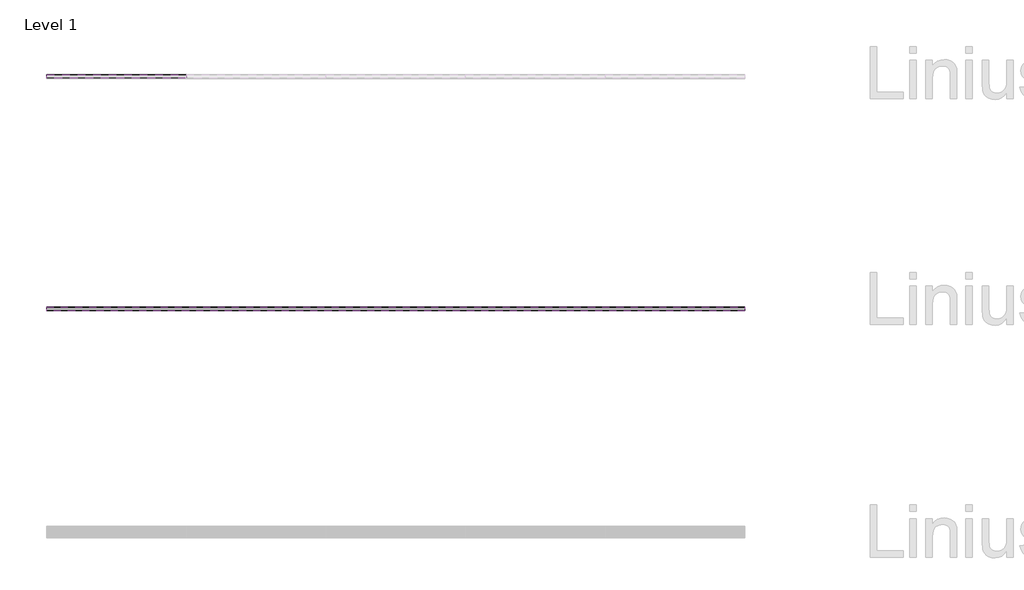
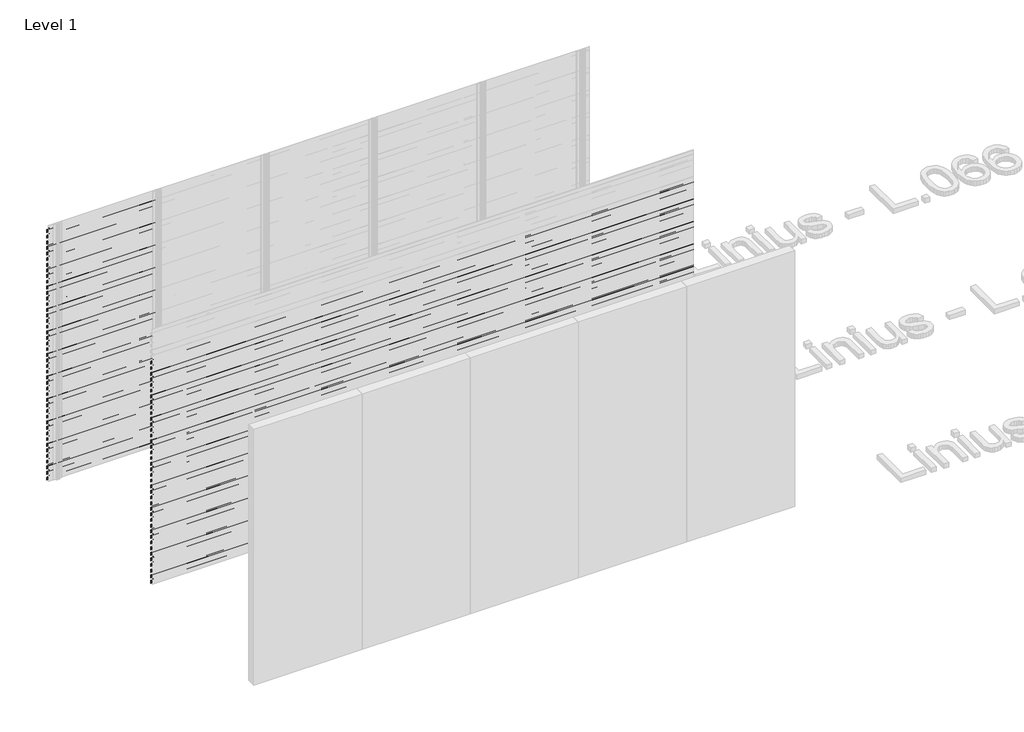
# One storey, part 43 of 540: 85 proxies.
"""IFC4 building model written with IfcOpenShell, lengths in millimetres."""

from ifc_helpers import new_model, si_unit, frame, origin, place, context, project, spatial, polyline, outline, extrude, element, save

model = new_model("IFC4")

# Units and contexts
model_context = context("Model", 3, world=origin())
ifc_project = project(units=[si_unit("LENGTHUNIT", "METRE", prefix="MILLI")], contexts=[model_context])

# Site, building, storey
site = spatial("IfcSite", under=ifc_project)
building = spatial("IfcBuilding", under=site)
storey = spatial("IfcBuildingStorey", under=building, Name="Level 1", Elevation=0.0)

# Proxies
placement = place(None, origin())
element("IfcBuildingElementProxy", 1, Name="Wall Sweeps", at=placement, inside=storey, context=model_context, shape_type="SweptSolid", body=[
    extrude(outline(polyline([(7018.0270068, 2930.0), (7018.0270068, 2897.0), (7016.7770068, 2897.7216933), (7016.7770068, 2929.2872415), (6987.0270068, 2950.0588647), (6987.0270068, 2970.0), (6988.2770068, 2970.0), (6988.2770068, 2950.7716232), (7018.0270068, 2930.0)])), frame((44966.6208097, 0.0, 0.0), z_axis=(1.0, 0.0, 0.0), x_axis=(0.0, 1.0, 0.0)), (0.0, 0.0, 1.0), 1200.0),
])
element("IfcBuildingElementProxy", 2, Name="Wall Sweeps", at=placement, inside=storey, context=model_context, shape_type="SweptSolid", body=[
    extrude(outline(polyline([(7018.0270068, 2864.0), (7018.0270068, 2831.0), (7016.7770068, 2831.7216933), (7016.7770068, 2863.2872415), (6987.0270068, 2884.0588647), (6987.0270068, 2904.0), (6988.2770068, 2904.0), (6988.2770068, 2884.7716232), (7018.0270068, 2864.0)])), frame((44966.6208097, 0.0, 0.0), z_axis=(1.0, 0.0, 0.0), x_axis=(0.0, 1.0, 0.0)), (0.0, 0.0, 1.0), 1200.0),
])
element("IfcBuildingElementProxy", 3, Name="Wall Sweeps", at=placement, inside=storey, context=model_context, shape_type="SweptSolid", body=[
    extrude(outline(polyline([(7018.0270068, 2798.0), (7018.0270068, 2765.0), (7016.7770068, 2765.7216933), (7016.7770068, 2797.2872415), (6987.0270068, 2818.0588647), (6987.0270068, 2838.0), (6988.2770068, 2838.0), (6988.2770068, 2818.7716232), (7018.0270068, 2798.0)])), frame((44966.6208097, 0.0, 0.0), z_axis=(1.0, 0.0, 0.0), x_axis=(0.0, 1.0, 0.0)), (0.0, 0.0, 1.0), 1200.0),
])
element("IfcBuildingElementProxy", 4, Name="Wall Sweeps", at=placement, inside=storey, context=model_context, shape_type="SweptSolid", body=[
    extrude(outline(polyline([(7018.0270068, 2732.0), (7018.0270068, 2699.0), (7016.7770068, 2699.7216933), (7016.7770068, 2731.2872415), (6987.0270068, 2752.0588647), (6987.0270068, 2772.0), (6988.2770068, 2772.0), (6988.2770068, 2752.7716232), (7018.0270068, 2732.0)])), frame((44966.6208097, 0.0, 0.0), z_axis=(1.0, 0.0, 0.0), x_axis=(0.0, 1.0, 0.0)), (0.0, 0.0, 1.0), 1200.0),
])
element("IfcBuildingElementProxy", 5, Name="Wall Sweeps", at=placement, inside=storey, context=model_context, shape_type="SweptSolid", body=[
    extrude(outline(polyline([(7018.0270068, 2666.0), (7018.0270068, 2633.0), (7016.7770068, 2633.7216933), (7016.7770068, 2665.2872415), (6987.0270068, 2686.0588647), (6987.0270068, 2706.0), (6988.2770068, 2706.0), (6988.2770068, 2686.7716232), (7018.0270068, 2666.0)])), frame((44966.6208097, 0.0, 0.0), z_axis=(1.0, 0.0, 0.0), x_axis=(0.0, 1.0, 0.0)), (0.0, 0.0, 1.0), 1200.0),
])
element("IfcBuildingElementProxy", 6, Name="Wall Sweeps", at=placement, inside=storey, context=model_context, shape_type="SweptSolid", body=[
    extrude(outline(polyline([(7018.0270068, 2600.0), (7018.0270068, 2567.0), (7016.7770068, 2567.7216933), (7016.7770068, 2599.2872415), (6987.0270068, 2620.0588647), (6987.0270068, 2640.0), (6988.2770068, 2640.0), (6988.2770068, 2620.7716232), (7018.0270068, 2600.0)])), frame((44966.6208097, 0.0, 0.0), z_axis=(1.0, 0.0, 0.0), x_axis=(0.0, 1.0, 0.0)), (0.0, 0.0, 1.0), 1200.0),
])
element("IfcBuildingElementProxy", 7, Name="Wall Sweeps", at=placement, inside=storey, context=model_context, shape_type="SweptSolid", body=[
    extrude(outline(polyline([(7018.0270068, 2534.0), (7018.0270068, 2501.0), (7016.7770068, 2501.7216933), (7016.7770068, 2533.2872415), (6987.0270068, 2554.0588647), (6987.0270068, 2574.0), (6988.2770068, 2574.0), (6988.2770068, 2554.7716232), (7018.0270068, 2534.0)])), frame((44966.6208097, 0.0, 0.0), z_axis=(1.0, 0.0, 0.0), x_axis=(0.0, 1.0, 0.0)), (0.0, 0.0, 1.0), 1200.0),
])
element("IfcBuildingElementProxy", 8, Name="Wall Sweeps", at=placement, inside=storey, context=model_context, shape_type="SweptSolid", body=[
    extrude(outline(polyline([(7018.0270068, 2468.0), (7018.0270068, 2435.0), (7016.7770068, 2435.7216933), (7016.7770068, 2467.2872415), (6987.0270068, 2488.0588647), (6987.0270068, 2508.0), (6988.2770068, 2508.0), (6988.2770068, 2488.7716232), (7018.0270068, 2468.0)])), frame((44966.6208097, 0.0, 0.0), z_axis=(1.0, 0.0, 0.0), x_axis=(0.0, 1.0, 0.0)), (0.0, 0.0, 1.0), 1200.0),
])
element("IfcBuildingElementProxy", 9, Name="Wall Sweeps", at=placement, inside=storey, context=model_context, shape_type="SweptSolid", body=[
    extrude(outline(polyline([(7018.0270068, 2402.0), (7018.0270068, 2369.0), (7016.7770068, 2369.7216933), (7016.7770068, 2401.2872415), (6987.0270068, 2422.0588647), (6987.0270068, 2442.0), (6988.2770068, 2442.0), (6988.2770068, 2422.7716232), (7018.0270068, 2402.0)])), frame((44966.6208097, 0.0, 0.0), z_axis=(1.0, 0.0, 0.0), x_axis=(0.0, 1.0, 0.0)), (0.0, 0.0, 1.0), 1200.0),
])
element("IfcBuildingElementProxy", 10, Name="Wall Sweeps", at=placement, inside=storey, context=model_context, shape_type="SweptSolid", body=[
    extrude(outline(polyline([(7018.0270068, 2336.0), (7018.0270068, 2303.0), (7016.7770068, 2303.7216933), (7016.7770068, 2335.2872415), (6987.0270068, 2356.0588647), (6987.0270068, 2376.0), (6988.2770068, 2376.0), (6988.2770068, 2356.7716232), (7018.0270068, 2336.0)])), frame((44966.6208097, 0.0, 0.0), z_axis=(1.0, 0.0, 0.0), x_axis=(0.0, 1.0, 0.0)), (0.0, 0.0, 1.0), 1200.0),
])
element("IfcBuildingElementProxy", 11, Name="Wall Sweeps", at=placement, inside=storey, context=model_context, shape_type="SweptSolid", body=[
    extrude(outline(polyline([(7018.0270068, 2270.0), (7018.0270068, 2237.0), (7016.7770068, 2237.7216933), (7016.7770068, 2269.2872415), (6987.0270068, 2290.0588647), (6987.0270068, 2310.0), (6988.2770068, 2310.0), (6988.2770068, 2290.7716232), (7018.0270068, 2270.0)])), frame((44966.6208097, 0.0, 0.0), z_axis=(1.0, 0.0, 0.0), x_axis=(0.0, 1.0, 0.0)), (0.0, 0.0, 1.0), 1200.0),
])
element("IfcBuildingElementProxy", 12, Name="Wall Sweeps", at=placement, inside=storey, context=model_context, shape_type="SweptSolid", body=[
    extrude(outline(polyline([(7018.0270068, 2204.0), (7018.0270068, 2171.0), (7016.7770068, 2171.7216933), (7016.7770068, 2203.2872415), (6987.0270068, 2224.0588647), (6987.0270068, 2244.0), (6988.2770068, 2244.0), (6988.2770068, 2224.7716232), (7018.0270068, 2204.0)])), frame((44966.6208097, 0.0, 0.0), z_axis=(1.0, 0.0, 0.0), x_axis=(0.0, 1.0, 0.0)), (0.0, 0.0, 1.0), 1200.0),
])
element("IfcBuildingElementProxy", 13, Name="Wall Sweeps", at=placement, inside=storey, context=model_context, shape_type="SweptSolid", body=[
    extrude(outline(polyline([(7018.0270068, 2138.0), (7018.0270068, 2105.0), (7016.7770068, 2105.7216933), (7016.7770068, 2137.2872415), (6987.0270068, 2158.0588647), (6987.0270068, 2178.0), (6988.2770068, 2178.0), (6988.2770068, 2158.7716232), (7018.0270068, 2138.0)])), frame((44966.6208097, 0.0, 0.0), z_axis=(1.0, 0.0, 0.0), x_axis=(0.0, 1.0, 0.0)), (0.0, 0.0, 1.0), 1200.0),
])
element("IfcBuildingElementProxy", 14, Name="Wall Sweeps", at=placement, inside=storey, context=model_context, shape_type="SweptSolid", body=[
    extrude(outline(polyline([(7018.0270068, 2072.0), (7018.0270068, 2039.0), (7016.7770068, 2039.7216933), (7016.7770068, 2071.2872415), (6987.0270068, 2092.0588647), (6987.0270068, 2112.0), (6988.2770068, 2112.0), (6988.2770068, 2092.7716232), (7018.0270068, 2072.0)])), frame((44966.6208097, 0.0, 0.0), z_axis=(1.0, 0.0, 0.0), x_axis=(0.0, 1.0, 0.0)), (0.0, 0.0, 1.0), 1200.0),
])
element("IfcBuildingElementProxy", 15, Name="Wall Sweeps", at=placement, inside=storey, context=model_context, shape_type="SweptSolid", body=[
    extrude(outline(polyline([(7018.0270068, 2006.0), (7018.0270068, 1973.0), (7016.7770068, 1973.7216933), (7016.7770068, 2005.2872415), (6987.0270068, 2026.0588647), (6987.0270068, 2046.0), (6988.2770068, 2046.0), (6988.2770068, 2026.7716232), (7018.0270068, 2006.0)])), frame((44966.6208097, 0.0, 0.0), z_axis=(1.0, 0.0, 0.0), x_axis=(0.0, 1.0, 0.0)), (0.0, 0.0, 1.0), 1200.0),
])
element("IfcBuildingElementProxy", 16, Name="Wall Sweeps", at=placement, inside=storey, context=model_context, shape_type="SweptSolid", body=[
    extrude(outline(polyline([(7018.0270068, 1940.0), (7018.0270068, 1907.0), (7016.7770068, 1907.7216933), (7016.7770068, 1939.2872415), (6987.0270068, 1960.0588647), (6987.0270068, 1980.0), (6988.2770068, 1980.0), (6988.2770068, 1960.7716232), (7018.0270068, 1940.0)])), frame((44966.6208097, 0.0, 0.0), z_axis=(1.0, 0.0, 0.0), x_axis=(0.0, 1.0, 0.0)), (0.0, 0.0, 1.0), 1200.0),
])
element("IfcBuildingElementProxy", 17, Name="Wall Sweeps", at=placement, inside=storey, context=model_context, shape_type="SweptSolid", body=[
    extrude(outline(polyline([(7018.0270068, 1874.0), (7018.0270068, 1841.0), (7016.7770068, 1841.7216933), (7016.7770068, 1873.2872415), (6987.0270068, 1894.0588647), (6987.0270068, 1914.0), (6988.2770068, 1914.0), (6988.2770068, 1894.7716232), (7018.0270068, 1874.0)])), frame((44966.6208097, 0.0, 0.0), z_axis=(1.0, 0.0, 0.0), x_axis=(0.0, 1.0, 0.0)), (0.0, 0.0, 1.0), 1200.0),
])
element("IfcBuildingElementProxy", 18, Name="Wall Sweeps", at=placement, inside=storey, context=model_context, shape_type="SweptSolid", body=[
    extrude(outline(polyline([(7018.0270068, 1808.0), (7018.0270068, 1775.0), (7016.7770068, 1775.7216933), (7016.7770068, 1807.2872415), (6987.0270068, 1828.0588647), (6987.0270068, 1848.0), (6988.2770068, 1848.0), (6988.2770068, 1828.7716232), (7018.0270068, 1808.0)])), frame((44966.6208097, 0.0, 0.0), z_axis=(1.0, 0.0, 0.0), x_axis=(0.0, 1.0, 0.0)), (0.0, 0.0, 1.0), 1200.0),
])
element("IfcBuildingElementProxy", 19, Name="Wall Sweeps", at=placement, inside=storey, context=model_context, shape_type="SweptSolid", body=[
    extrude(outline(polyline([(7018.0270068, 1742.0), (7018.0270068, 1709.0), (7016.7770068, 1709.7216933), (7016.7770068, 1741.2872415), (6987.0270068, 1762.0588647), (6987.0270068, 1782.0), (6988.2770068, 1782.0), (6988.2770068, 1762.7716232), (7018.0270068, 1742.0)])), frame((44966.6208097, 0.0, 0.0), z_axis=(1.0, 0.0, 0.0), x_axis=(0.0, 1.0, 0.0)), (0.0, 0.0, 1.0), 1200.0),
])
element("IfcBuildingElementProxy", 20, Name="Wall Sweeps", at=placement, inside=storey, context=model_context, shape_type="SweptSolid", body=[
    extrude(outline(polyline([(7018.0270068, 1676.0), (7018.0270068, 1643.0), (7016.7770068, 1643.7216933), (7016.7770068, 1675.2872415), (6987.0270068, 1696.0588647), (6987.0270068, 1716.0), (6988.2770068, 1716.0), (6988.2770068, 1696.7716232), (7018.0270068, 1676.0)])), frame((44966.6208097, 0.0, 0.0), z_axis=(1.0, 0.0, 0.0), x_axis=(0.0, 1.0, 0.0)), (0.0, 0.0, 1.0), 1200.0),
])
element("IfcBuildingElementProxy", 21, Name="Wall Sweeps", at=placement, inside=storey, context=model_context, shape_type="SweptSolid", body=[
    extrude(outline(polyline([(7018.0270068, 1610.0), (7018.0270068, 1577.0), (7016.7770068, 1577.7216933), (7016.7770068, 1609.2872415), (6987.0270068, 1630.0588647), (6987.0270068, 1650.0), (6988.2770068, 1650.0), (6988.2770068, 1630.7716232), (7018.0270068, 1610.0)])), frame((44966.6208097, 0.0, 0.0), z_axis=(1.0, 0.0, 0.0), x_axis=(0.0, 1.0, 0.0)), (0.0, 0.0, 1.0), 1200.0),
])
element("IfcBuildingElementProxy", 22, Name="Wall Sweeps", at=placement, inside=storey, context=model_context, shape_type="SweptSolid", body=[
    extrude(outline(polyline([(7018.0270068, 1544.0), (7018.0270068, 1511.0), (7016.7770068, 1511.7216933), (7016.7770068, 1543.2872415), (6987.0270068, 1564.0588647), (6987.0270068, 1584.0), (6988.2770068, 1584.0), (6988.2770068, 1564.7716232), (7018.0270068, 1544.0)])), frame((44966.6208097, 0.0, 0.0), z_axis=(1.0, 0.0, 0.0), x_axis=(0.0, 1.0, 0.0)), (0.0, 0.0, 1.0), 1200.0),
])
element("IfcBuildingElementProxy", 23, Name="Wall Sweeps", at=placement, inside=storey, context=model_context, shape_type="SweptSolid", body=[
    extrude(outline(polyline([(7018.0270068, 1478.0), (7018.0270068, 1445.0), (7016.7770068, 1445.7216933), (7016.7770068, 1477.2872415), (6987.0270068, 1498.0588647), (6987.0270068, 1518.0), (6988.2770068, 1518.0), (6988.2770068, 1498.7716232), (7018.0270068, 1478.0)])), frame((44966.6208097, 0.0, 0.0), z_axis=(1.0, 0.0, 0.0), x_axis=(0.0, 1.0, 0.0)), (0.0, 0.0, 1.0), 1200.0),
])
element("IfcBuildingElementProxy", 24, Name="Wall Sweeps", at=placement, inside=storey, context=model_context, shape_type="SweptSolid", body=[
    extrude(outline(polyline([(7018.0270068, 1412.0), (7018.0270068, 1379.0), (7016.7770068, 1379.7216933), (7016.7770068, 1411.2872415), (6987.0270068, 1432.0588647), (6987.0270068, 1452.0), (6988.2770068, 1452.0), (6988.2770068, 1432.7716232), (7018.0270068, 1412.0)])), frame((44966.6208097, 0.0, 0.0), z_axis=(1.0, 0.0, 0.0), x_axis=(0.0, 1.0, 0.0)), (0.0, 0.0, 1.0), 1200.0),
])
element("IfcBuildingElementProxy", 25, Name="Wall Sweeps", at=placement, inside=storey, context=model_context, shape_type="SweptSolid", body=[
    extrude(outline(polyline([(7018.0270068, 1346.0), (7018.0270068, 1313.0), (7016.7770068, 1313.7216933), (7016.7770068, 1345.2872415), (6987.0270068, 1366.0588647), (6987.0270068, 1386.0), (6988.2770068, 1386.0), (6988.2770068, 1366.7716232), (7018.0270068, 1346.0)])), frame((44966.6208097, 0.0, 0.0), z_axis=(1.0, 0.0, 0.0), x_axis=(0.0, 1.0, 0.0)), (0.0, 0.0, 1.0), 1200.0),
])
element("IfcBuildingElementProxy", 26, Name="Wall Sweeps", at=placement, inside=storey, context=model_context, shape_type="SweptSolid", body=[
    extrude(outline(polyline([(7018.0270068, 1280.0), (7018.0270068, 1247.0), (7016.7770068, 1247.7216933), (7016.7770068, 1279.2872415), (6987.0270068, 1300.0588647), (6987.0270068, 1320.0), (6988.2770068, 1320.0), (6988.2770068, 1300.7716232), (7018.0270068, 1280.0)])), frame((44966.6208097, 0.0, 0.0), z_axis=(1.0, 0.0, 0.0), x_axis=(0.0, 1.0, 0.0)), (0.0, 0.0, 1.0), 1200.0),
])
element("IfcBuildingElementProxy", 27, Name="Wall Sweeps", at=placement, inside=storey, context=model_context, shape_type="SweptSolid", body=[
    extrude(outline(polyline([(7018.0270068, 1214.0), (7018.0270068, 1181.0), (7016.7770068, 1181.7216933), (7016.7770068, 1213.2872415), (6987.0270068, 1234.0588647), (6987.0270068, 1254.0), (6988.2770068, 1254.0), (6988.2770068, 1234.7716232), (7018.0270068, 1214.0)])), frame((44966.6208097, 0.0, 0.0), z_axis=(1.0, 0.0, 0.0), x_axis=(0.0, 1.0, 0.0)), (0.0, 0.0, 1.0), 1200.0),
])
element("IfcBuildingElementProxy", 28, Name="Wall Sweeps", at=placement, inside=storey, context=model_context, shape_type="SweptSolid", body=[
    extrude(outline(polyline([(7018.0270068, 1148.0), (7018.0270068, 1115.0), (7016.7770068, 1115.7216933), (7016.7770068, 1147.2872415), (6987.0270068, 1168.0588647), (6987.0270068, 1188.0), (6988.2770068, 1188.0), (6988.2770068, 1168.7716232), (7018.0270068, 1148.0)])), frame((44966.6208097, 0.0, 0.0), z_axis=(1.0, 0.0, 0.0), x_axis=(0.0, 1.0, 0.0)), (0.0, 0.0, 1.0), 1200.0),
])
element("IfcBuildingElementProxy", 29, Name="Wall Sweeps", at=placement, inside=storey, context=model_context, shape_type="SweptSolid", body=[
    extrude(outline(polyline([(7018.0270068, 1082.0), (7018.0270068, 1049.0), (7016.7770068, 1049.7216933), (7016.7770068, 1081.2872415), (6987.0270068, 1102.0588647), (6987.0270068, 1122.0), (6988.2770068, 1122.0), (6988.2770068, 1102.7716232), (7018.0270068, 1082.0)])), frame((44966.6208097, 0.0, 0.0), z_axis=(1.0, 0.0, 0.0), x_axis=(0.0, 1.0, 0.0)), (0.0, 0.0, 1.0), 1200.0),
])
element("IfcBuildingElementProxy", 30, Name="Wall Sweeps", at=placement, inside=storey, context=model_context, shape_type="SweptSolid", body=[
    extrude(outline(polyline([(7018.0270068, 1016.0), (7018.0270068, 983.0), (7016.7770068, 983.7216933), (7016.7770068, 1015.2872415), (6987.0270068, 1036.0588647), (6987.0270068, 1056.0), (6988.2770068, 1056.0), (6988.2770068, 1036.7716232), (7018.0270068, 1016.0)])), frame((44966.6208097, 0.0, 0.0), z_axis=(1.0, 0.0, 0.0), x_axis=(0.0, 1.0, 0.0)), (0.0, 0.0, 1.0), 1200.0),
])
element("IfcBuildingElementProxy", 31, Name="Wall Sweeps", at=placement, inside=storey, context=model_context, shape_type="SweptSolid", body=[
    extrude(outline(polyline([(7018.0270068, 950.0), (7018.0270068, 917.0), (7016.7770068, 917.7216933), (7016.7770068, 949.2872415), (6987.0270068, 970.0588647), (6987.0270068, 990.0), (6988.2770068, 990.0), (6988.2770068, 970.7716232), (7018.0270068, 950.0)])), frame((44966.6208097, 0.0, 0.0), z_axis=(1.0, 0.0, 0.0), x_axis=(0.0, 1.0, 0.0)), (0.0, 0.0, 1.0), 1200.0),
])
element("IfcBuildingElementProxy", 32, Name="Wall Sweeps", at=placement, inside=storey, context=model_context, shape_type="SweptSolid", body=[
    extrude(outline(polyline([(7018.0270068, 884.0), (7018.0270068, 851.0), (7016.7770068, 851.7216933), (7016.7770068, 883.2872415), (6987.0270068, 904.0588647), (6987.0270068, 924.0), (6988.2770068, 924.0), (6988.2770068, 904.7716232), (7018.0270068, 884.0)])), frame((44966.6208097, 0.0, 0.0), z_axis=(1.0, 0.0, 0.0), x_axis=(0.0, 1.0, 0.0)), (0.0, 0.0, 1.0), 1200.0),
])
element("IfcBuildingElementProxy", 33, Name="Wall Sweeps", at=placement, inside=storey, context=model_context, shape_type="SweptSolid", body=[
    extrude(outline(polyline([(7018.0270068, 818.0), (7018.0270068, 785.0), (7016.7770068, 785.7216933), (7016.7770068, 817.2872415), (6987.0270068, 838.0588647), (6987.0270068, 858.0), (6988.2770068, 858.0), (6988.2770068, 838.7716232), (7018.0270068, 818.0)])), frame((44966.6208097, 0.0, 0.0), z_axis=(1.0, 0.0, 0.0), x_axis=(0.0, 1.0, 0.0)), (0.0, 0.0, 1.0), 1200.0),
])
element("IfcBuildingElementProxy", 34, Name="Wall Sweeps", at=placement, inside=storey, context=model_context, shape_type="SweptSolid", body=[
    extrude(outline(polyline([(7018.0270068, 752.0), (7018.0270068, 719.0), (7016.7770068, 719.7216933), (7016.7770068, 751.2872415), (6987.0270068, 772.0588647), (6987.0270068, 792.0), (6988.2770068, 792.0), (6988.2770068, 772.7716232), (7018.0270068, 752.0)])), frame((44966.6208097, 0.0, 0.0), z_axis=(1.0, 0.0, 0.0), x_axis=(0.0, 1.0, 0.0)), (0.0, 0.0, 1.0), 1200.0),
])
element("IfcBuildingElementProxy", 35, Name="Wall Sweeps", at=placement, inside=storey, context=model_context, shape_type="SweptSolid", body=[
    extrude(outline(polyline([(7018.0270068, 686.0), (7018.0270068, 653.0), (7016.7770068, 653.7216933), (7016.7770068, 685.2872415), (6987.0270068, 706.0588647), (6987.0270068, 726.0), (6988.2770068, 726.0), (6988.2770068, 706.7716232), (7018.0270068, 686.0)])), frame((44966.6208097, 0.0, 0.0), z_axis=(1.0, 0.0, 0.0), x_axis=(0.0, 1.0, 0.0)), (0.0, 0.0, 1.0), 1200.0),
])
element("IfcBuildingElementProxy", 36, Name="Wall Sweeps", at=placement, inside=storey, context=model_context, shape_type="SweptSolid", body=[
    extrude(outline(polyline([(7018.0270068, 620.0), (7018.0270068, 587.0), (7016.7770068, 587.7216933), (7016.7770068, 619.2872415), (6987.0270068, 640.0588647), (6987.0270068, 660.0), (6988.2770068, 660.0), (6988.2770068, 640.7716232), (7018.0270068, 620.0)])), frame((44966.6208097, 0.0, 0.0), z_axis=(1.0, 0.0, 0.0), x_axis=(0.0, 1.0, 0.0)), (0.0, 0.0, 1.0), 1200.0),
])
element("IfcBuildingElementProxy", 37, Name="Wall Sweeps", at=placement, inside=storey, context=model_context, shape_type="SweptSolid", body=[
    extrude(outline(polyline([(7018.0270068, 554.0), (7018.0270068, 521.0), (7016.7770068, 521.7216933), (7016.7770068, 553.2872415), (6987.0270068, 574.0588647), (6987.0270068, 594.0), (6988.2770068, 594.0), (6988.2770068, 574.7716232), (7018.0270068, 554.0)])), frame((44966.6208097, 0.0, 0.0), z_axis=(1.0, 0.0, 0.0), x_axis=(0.0, 1.0, 0.0)), (0.0, 0.0, 1.0), 1200.0),
])
element("IfcBuildingElementProxy", 38, Name="Wall Sweeps", at=placement, inside=storey, context=model_context, shape_type="SweptSolid", body=[
    extrude(outline(polyline([(7018.0270068, 488.0), (7018.0270068, 455.0), (7016.7770068, 455.7216933), (7016.7770068, 487.2872415), (6987.0270068, 508.0588647), (6987.0270068, 528.0), (6988.2770068, 528.0), (6988.2770068, 508.7716232), (7018.0270068, 488.0)])), frame((44966.6208097, 0.0, 0.0), z_axis=(1.0, 0.0, 0.0), x_axis=(0.0, 1.0, 0.0)), (0.0, 0.0, 1.0), 1200.0),
])
element("IfcBuildingElementProxy", 39, Name="Wall Sweeps", at=placement, inside=storey, context=model_context, shape_type="SweptSolid", body=[
    extrude(outline(polyline([(7018.0270068, 422.0), (7018.0270068, 389.0), (7016.7770068, 389.7216933), (7016.7770068, 421.2872415), (6987.0270068, 442.0588647), (6987.0270068, 462.0), (6988.2770068, 462.0), (6988.2770068, 442.7716232), (7018.0270068, 422.0)])), frame((44966.6208097, 0.0, 0.0), z_axis=(1.0, 0.0, 0.0), x_axis=(0.0, 1.0, 0.0)), (0.0, 0.0, 1.0), 1200.0),
])
element("IfcBuildingElementProxy", 40, Name="Wall Sweeps", at=placement, inside=storey, context=model_context, shape_type="SweptSolid", body=[
    extrude(outline(polyline([(7018.0270068, 356.0), (7018.0270068, 323.0), (7016.7770068, 323.7216933), (7016.7770068, 355.2872415), (6987.0270068, 376.0588647), (6987.0270068, 396.0), (6988.2770068, 396.0), (6988.2770068, 376.7716232), (7018.0270068, 356.0)])), frame((44966.6208097, 0.0, 0.0), z_axis=(1.0, 0.0, 0.0), x_axis=(0.0, 1.0, 0.0)), (0.0, 0.0, 1.0), 1200.0),
])
element("IfcBuildingElementProxy", 41, Name="Wall Sweeps", at=placement, inside=storey, context=model_context, shape_type="SweptSolid", body=[
    extrude(outline(polyline([(7018.0270068, 290.0), (7018.0270068, 257.0), (7016.7770068, 257.7216933), (7016.7770068, 289.2872415), (6987.0270068, 310.0588647), (6987.0270068, 330.0), (6988.2770068, 330.0), (6988.2770068, 310.7716232), (7018.0270068, 290.0)])), frame((44966.6208097, 0.0, 0.0), z_axis=(1.0, 0.0, 0.0), x_axis=(0.0, 1.0, 0.0)), (0.0, 0.0, 1.0), 1200.0),
])
element("IfcBuildingElementProxy", 42, Name="Wall Sweeps", at=placement, inside=storey, context=model_context, shape_type="SweptSolid", body=[
    extrude(outline(polyline([(7018.0270068, 224.0), (7018.0270068, 191.0), (7016.7770068, 191.7216933), (7016.7770068, 223.2872415), (6987.0270068, 244.0588647), (6987.0270068, 264.0), (6988.2770068, 264.0), (6988.2770068, 244.7716232), (7018.0270068, 224.0)])), frame((44966.6208097, 0.0, 0.0), z_axis=(1.0, 0.0, 0.0), x_axis=(0.0, 1.0, 0.0)), (0.0, 0.0, 1.0), 1200.0),
])
element("IfcBuildingElementProxy", 43, Name="Wall Sweeps", at=placement, inside=storey, context=model_context, shape_type="SweptSolid", body=[
    extrude(outline(polyline([(7018.0270068, 158.0), (7018.0270068, 125.0), (7016.7770068, 125.7216933), (7016.7770068, 157.2872415), (6987.0270068, 178.0588647), (6987.0270068, 198.0), (6988.2770068, 198.0), (6988.2770068, 178.7716232), (7018.0270068, 158.0)])), frame((44966.6208097, 0.0, 0.0), z_axis=(1.0, 0.0, 0.0), x_axis=(0.0, 1.0, 0.0)), (0.0, 0.0, 1.0), 1200.0),
])
element("IfcBuildingElementProxy", 44, Name="Wall Sweeps", at=placement, inside=storey, context=model_context, shape_type="SweptSolid", body=[
    extrude(outline(polyline([(7018.0270068, 92.0), (7018.0270068, 59.0), (7016.7770068, 59.7216933), (7016.7770068, 91.2872415), (6987.0270068, 112.0588647), (6987.0270068, 132.0), (6988.2770068, 132.0), (6988.2770068, 112.7716232), (7018.0270068, 92.0)])), frame((44966.6208097, 0.0, 0.0), z_axis=(1.0, 0.0, 0.0), x_axis=(0.0, 1.0, 0.0)), (0.0, 0.0, 1.0), 1200.0),
])
element("IfcBuildingElementProxy", 45, Name="Wall Sweeps", at=placement, inside=storey, context=model_context, shape_type="SweptSolid", body=[
    extrude(outline(polyline([(7018.0270068, 26.0), (7018.0270068, -7.0), (7016.7770068, -6.2783067), (7016.7770068, 25.2872415), (6987.0270068, 46.0588647), (6987.0270068, 66.0), (6988.2770068, 66.0), (6988.2770068, 46.7716232), (7018.0270068, 26.0)])), frame((44966.6208097, 0.0, 0.0), z_axis=(1.0, 0.0, 0.0), x_axis=(0.0, 1.0, 0.0)), (0.0, 0.0, 1.0), 1200.0),
])
element("IfcBuildingElementProxy", 46, Name="Wall Sweeps", at=placement, inside=storey, context=model_context, shape_type="SweptSolid", body=[
    extrude(outline(polyline([(5018.0270068, 2600.0), (5018.0270068, 2567.0), (5016.7770068, 2567.7216933), (5016.7770068, 2599.2872415), (4987.0270068, 2620.0588647), (4987.0270068, 2640.0), (4988.2770068, 2640.0), (4988.2770068, 2620.7716232), (5018.0270068, 2600.0)])), frame((44966.6208097, 0.0, 0.0), z_axis=(1.0, 0.0, 0.0), x_axis=(0.0, 1.0, 0.0)), (0.0, 0.0, 1.0), 6000.0),
])
element("IfcBuildingElementProxy", 47, Name="Wall Sweeps", at=placement, inside=storey, context=model_context, shape_type="SweptSolid", body=[
    extrude(outline(polyline([(5018.0270068, 2534.0), (5018.0270068, 2501.0), (5016.7770068, 2501.7216933), (5016.7770068, 2533.2872415), (4987.0270068, 2554.0588647), (4987.0270068, 2574.0), (4988.2770068, 2574.0), (4988.2770068, 2554.7716232), (5018.0270068, 2534.0)])), frame((44966.6208097, 0.0, 0.0), z_axis=(1.0, 0.0, 0.0), x_axis=(0.0, 1.0, 0.0)), (0.0, 0.0, 1.0), 6000.0),
])
element("IfcBuildingElementProxy", 48, Name="Wall Sweeps", at=placement, inside=storey, context=model_context, shape_type="SweptSolid", body=[
    extrude(outline(polyline([(5018.0270068, 2468.0), (5018.0270068, 2435.0), (5016.7770068, 2435.7216933), (5016.7770068, 2467.2872415), (4987.0270068, 2488.0588647), (4987.0270068, 2508.0), (4988.2770068, 2508.0), (4988.2770068, 2488.7716232), (5018.0270068, 2468.0)])), frame((44966.6208097, 0.0, 0.0), z_axis=(1.0, 0.0, 0.0), x_axis=(0.0, 1.0, 0.0)), (0.0, 0.0, 1.0), 6000.0),
])
element("IfcBuildingElementProxy", 49, Name="Wall Sweeps", at=placement, inside=storey, context=model_context, shape_type="SweptSolid", body=[
    extrude(outline(polyline([(5018.0270068, 2402.0), (5018.0270068, 2369.0), (5016.7770068, 2369.7216933), (5016.7770068, 2401.2872415), (4987.0270068, 2422.0588647), (4987.0270068, 2442.0), (4988.2770068, 2442.0), (4988.2770068, 2422.7716232), (5018.0270068, 2402.0)])), frame((44966.6208097, 0.0, 0.0), z_axis=(1.0, 0.0, 0.0), x_axis=(0.0, 1.0, 0.0)), (0.0, 0.0, 1.0), 6000.0),
])
element("IfcBuildingElementProxy", 50, Name="Wall Sweeps", at=placement, inside=storey, context=model_context, shape_type="SweptSolid", body=[
    extrude(outline(polyline([(5018.0270068, 2336.0), (5018.0270068, 2303.0), (5016.7770068, 2303.7216933), (5016.7770068, 2335.2872415), (4987.0270068, 2356.0588647), (4987.0270068, 2376.0), (4988.2770068, 2376.0), (4988.2770068, 2356.7716232), (5018.0270068, 2336.0)])), frame((44966.6208097, 0.0, 0.0), z_axis=(1.0, 0.0, 0.0), x_axis=(0.0, 1.0, 0.0)), (0.0, 0.0, 1.0), 6000.0),
])
element("IfcBuildingElementProxy", 51, Name="Wall Sweeps", at=placement, inside=storey, context=model_context, shape_type="SweptSolid", body=[
    extrude(outline(polyline([(5018.0270068, 2270.0), (5018.0270068, 2237.0), (5016.7770068, 2237.7216933), (5016.7770068, 2269.2872415), (4987.0270068, 2290.0588647), (4987.0270068, 2310.0), (4988.2770068, 2310.0), (4988.2770068, 2290.7716232), (5018.0270068, 2270.0)])), frame((44966.6208097, 0.0, 0.0), z_axis=(1.0, 0.0, 0.0), x_axis=(0.0, 1.0, 0.0)), (0.0, 0.0, 1.0), 6000.0),
])
element("IfcBuildingElementProxy", 52, Name="Wall Sweeps", at=placement, inside=storey, context=model_context, shape_type="SweptSolid", body=[
    extrude(outline(polyline([(5018.0270068, 2204.0), (5018.0270068, 2171.0), (5016.7770068, 2171.7216933), (5016.7770068, 2203.2872415), (4987.0270068, 2224.0588647), (4987.0270068, 2244.0), (4988.2770068, 2244.0), (4988.2770068, 2224.7716232), (5018.0270068, 2204.0)])), frame((44966.6208097, 0.0, 0.0), z_axis=(1.0, 0.0, 0.0), x_axis=(0.0, 1.0, 0.0)), (0.0, 0.0, 1.0), 6000.0),
])
element("IfcBuildingElementProxy", 53, Name="Wall Sweeps", at=placement, inside=storey, context=model_context, shape_type="SweptSolid", body=[
    extrude(outline(polyline([(5018.0270068, 2138.0), (5018.0270068, 2105.0), (5016.7770068, 2105.7216933), (5016.7770068, 2137.2872415), (4987.0270068, 2158.0588647), (4987.0270068, 2178.0), (4988.2770068, 2178.0), (4988.2770068, 2158.7716232), (5018.0270068, 2138.0)])), frame((44966.6208097, 0.0, 0.0), z_axis=(1.0, 0.0, 0.0), x_axis=(0.0, 1.0, 0.0)), (0.0, 0.0, 1.0), 6000.0),
])
element("IfcBuildingElementProxy", 54, Name="Wall Sweeps", at=placement, inside=storey, context=model_context, shape_type="SweptSolid", body=[
    extrude(outline(polyline([(5018.0270068, 2072.0), (5018.0270068, 2039.0), (5016.7770068, 2039.7216933), (5016.7770068, 2071.2872415), (4987.0270068, 2092.0588647), (4987.0270068, 2112.0), (4988.2770068, 2112.0), (4988.2770068, 2092.7716232), (5018.0270068, 2072.0)])), frame((44966.6208097, 0.0, 0.0), z_axis=(1.0, 0.0, 0.0), x_axis=(0.0, 1.0, 0.0)), (0.0, 0.0, 1.0), 6000.0),
])
element("IfcBuildingElementProxy", 55, Name="Wall Sweeps", at=placement, inside=storey, context=model_context, shape_type="SweptSolid", body=[
    extrude(outline(polyline([(5018.0270068, 2006.0), (5018.0270068, 1973.0), (5016.7770068, 1973.7216933), (5016.7770068, 2005.2872415), (4987.0270068, 2026.0588647), (4987.0270068, 2046.0), (4988.2770068, 2046.0), (4988.2770068, 2026.7716232), (5018.0270068, 2006.0)])), frame((44966.6208097, 0.0, 0.0), z_axis=(1.0, 0.0, 0.0), x_axis=(0.0, 1.0, 0.0)), (0.0, 0.0, 1.0), 6000.0),
])
element("IfcBuildingElementProxy", 56, Name="Wall Sweeps", at=placement, inside=storey, context=model_context, shape_type="SweptSolid", body=[
    extrude(outline(polyline([(5018.0270068, 1940.0), (5018.0270068, 1907.0), (5016.7770068, 1907.7216933), (5016.7770068, 1939.2872415), (4987.0270068, 1960.0588647), (4987.0270068, 1980.0), (4988.2770068, 1980.0), (4988.2770068, 1960.7716232), (5018.0270068, 1940.0)])), frame((44966.6208097, 0.0, 0.0), z_axis=(1.0, 0.0, 0.0), x_axis=(0.0, 1.0, 0.0)), (0.0, 0.0, 1.0), 6000.0),
])
element("IfcBuildingElementProxy", 57, Name="Wall Sweeps", at=placement, inside=storey, context=model_context, shape_type="SweptSolid", body=[
    extrude(outline(polyline([(5018.0270068, 1874.0), (5018.0270068, 1841.0), (5016.7770068, 1841.7216933), (5016.7770068, 1873.2872415), (4987.0270068, 1894.0588647), (4987.0270068, 1914.0), (4988.2770068, 1914.0), (4988.2770068, 1894.7716232), (5018.0270068, 1874.0)])), frame((44966.6208097, 0.0, 0.0), z_axis=(1.0, 0.0, 0.0), x_axis=(0.0, 1.0, 0.0)), (0.0, 0.0, 1.0), 6000.0),
])
element("IfcBuildingElementProxy", 58, Name="Wall Sweeps", at=placement, inside=storey, context=model_context, shape_type="SweptSolid", body=[
    extrude(outline(polyline([(5018.0270068, 1808.0), (5018.0270068, 1775.0), (5016.7770068, 1775.7216933), (5016.7770068, 1807.2872415), (4987.0270068, 1828.0588647), (4987.0270068, 1848.0), (4988.2770068, 1848.0), (4988.2770068, 1828.7716232), (5018.0270068, 1808.0)])), frame((44966.6208097, 0.0, 0.0), z_axis=(1.0, 0.0, 0.0), x_axis=(0.0, 1.0, 0.0)), (0.0, 0.0, 1.0), 6000.0),
])
element("IfcBuildingElementProxy", 59, Name="Wall Sweeps", at=placement, inside=storey, context=model_context, shape_type="SweptSolid", body=[
    extrude(outline(polyline([(5018.0270068, 1742.0), (5018.0270068, 1709.0), (5016.7770068, 1709.7216933), (5016.7770068, 1741.2872415), (4987.0270068, 1762.0588647), (4987.0270068, 1782.0), (4988.2770068, 1782.0), (4988.2770068, 1762.7716232), (5018.0270068, 1742.0)])), frame((44966.6208097, 0.0, 0.0), z_axis=(1.0, 0.0, 0.0), x_axis=(0.0, 1.0, 0.0)), (0.0, 0.0, 1.0), 6000.0),
])
element("IfcBuildingElementProxy", 60, Name="Wall Sweeps", at=placement, inside=storey, context=model_context, shape_type="SweptSolid", body=[
    extrude(outline(polyline([(5018.0270068, 1676.0), (5018.0270068, 1643.0), (5016.7770068, 1643.7216933), (5016.7770068, 1675.2872415), (4987.0270068, 1696.0588647), (4987.0270068, 1716.0), (4988.2770068, 1716.0), (4988.2770068, 1696.7716232), (5018.0270068, 1676.0)])), frame((44966.6208097, 0.0, 0.0), z_axis=(1.0, 0.0, 0.0), x_axis=(0.0, 1.0, 0.0)), (0.0, 0.0, 1.0), 6000.0),
])
element("IfcBuildingElementProxy", 61, Name="Wall Sweeps", at=placement, inside=storey, context=model_context, shape_type="SweptSolid", body=[
    extrude(outline(polyline([(5018.0270068, 1610.0), (5018.0270068, 1577.0), (5016.7770068, 1577.7216933), (5016.7770068, 1609.2872415), (4987.0270068, 1630.0588647), (4987.0270068, 1650.0), (4988.2770068, 1650.0), (4988.2770068, 1630.7716232), (5018.0270068, 1610.0)])), frame((44966.6208097, 0.0, 0.0), z_axis=(1.0, 0.0, 0.0), x_axis=(0.0, 1.0, 0.0)), (0.0, 0.0, 1.0), 6000.0),
])
element("IfcBuildingElementProxy", 62, Name="Wall Sweeps", at=placement, inside=storey, context=model_context, shape_type="SweptSolid", body=[
    extrude(outline(polyline([(5018.0270068, 1544.0), (5018.0270068, 1511.0), (5016.7770068, 1511.7216933), (5016.7770068, 1543.2872415), (4987.0270068, 1564.0588647), (4987.0270068, 1584.0), (4988.2770068, 1584.0), (4988.2770068, 1564.7716232), (5018.0270068, 1544.0)])), frame((44966.6208097, 0.0, 0.0), z_axis=(1.0, 0.0, 0.0), x_axis=(0.0, 1.0, 0.0)), (0.0, 0.0, 1.0), 6000.0),
])
element("IfcBuildingElementProxy", 63, Name="Wall Sweeps", at=placement, inside=storey, context=model_context, shape_type="SweptSolid", body=[
    extrude(outline(polyline([(5018.0270068, 1478.0), (5018.0270068, 1445.0), (5016.7770068, 1445.7216933), (5016.7770068, 1477.2872415), (4987.0270068, 1498.0588647), (4987.0270068, 1518.0), (4988.2770068, 1518.0), (4988.2770068, 1498.7716232), (5018.0270068, 1478.0)])), frame((44966.6208097, 0.0, 0.0), z_axis=(1.0, 0.0, 0.0), x_axis=(0.0, 1.0, 0.0)), (0.0, 0.0, 1.0), 6000.0),
])
element("IfcBuildingElementProxy", 64, Name="Wall Sweeps", at=placement, inside=storey, context=model_context, shape_type="SweptSolid", body=[
    extrude(outline(polyline([(5018.0270068, 1412.0), (5018.0270068, 1379.0), (5016.7770068, 1379.7216933), (5016.7770068, 1411.2872415), (4987.0270068, 1432.0588647), (4987.0270068, 1452.0), (4988.2770068, 1452.0), (4988.2770068, 1432.7716232), (5018.0270068, 1412.0)])), frame((44966.6208097, 0.0, 0.0), z_axis=(1.0, 0.0, 0.0), x_axis=(0.0, 1.0, 0.0)), (0.0, 0.0, 1.0), 6000.0),
])
element("IfcBuildingElementProxy", 65, Name="Wall Sweeps", at=placement, inside=storey, context=model_context, shape_type="SweptSolid", body=[
    extrude(outline(polyline([(5018.0270068, 1346.0), (5018.0270068, 1313.0), (5016.7770068, 1313.7216933), (5016.7770068, 1345.2872415), (4987.0270068, 1366.0588647), (4987.0270068, 1386.0), (4988.2770068, 1386.0), (4988.2770068, 1366.7716232), (5018.0270068, 1346.0)])), frame((44966.6208097, 0.0, 0.0), z_axis=(1.0, 0.0, 0.0), x_axis=(0.0, 1.0, 0.0)), (0.0, 0.0, 1.0), 6000.0),
])
element("IfcBuildingElementProxy", 66, Name="Wall Sweeps", at=placement, inside=storey, context=model_context, shape_type="SweptSolid", body=[
    extrude(outline(polyline([(5018.0270068, 1280.0), (5018.0270068, 1247.0), (5016.7770068, 1247.7216933), (5016.7770068, 1279.2872415), (4987.0270068, 1300.0588647), (4987.0270068, 1320.0), (4988.2770068, 1320.0), (4988.2770068, 1300.7716232), (5018.0270068, 1280.0)])), frame((44966.6208097, 0.0, 0.0), z_axis=(1.0, 0.0, 0.0), x_axis=(0.0, 1.0, 0.0)), (0.0, 0.0, 1.0), 6000.0),
])
element("IfcBuildingElementProxy", 67, Name="Wall Sweeps", at=placement, inside=storey, context=model_context, shape_type="SweptSolid", body=[
    extrude(outline(polyline([(5018.0270068, 1214.0), (5018.0270068, 1181.0), (5016.7770068, 1181.7216933), (5016.7770068, 1213.2872415), (4987.0270068, 1234.0588647), (4987.0270068, 1254.0), (4988.2770068, 1254.0), (4988.2770068, 1234.7716232), (5018.0270068, 1214.0)])), frame((44966.6208097, 0.0, 0.0), z_axis=(1.0, 0.0, 0.0), x_axis=(0.0, 1.0, 0.0)), (0.0, 0.0, 1.0), 6000.0),
])
element("IfcBuildingElementProxy", 68, Name="Wall Sweeps", at=placement, inside=storey, context=model_context, shape_type="SweptSolid", body=[
    extrude(outline(polyline([(5018.0270068, 1148.0), (5018.0270068, 1115.0), (5016.7770068, 1115.7216933), (5016.7770068, 1147.2872415), (4987.0270068, 1168.0588647), (4987.0270068, 1188.0), (4988.2770068, 1188.0), (4988.2770068, 1168.7716232), (5018.0270068, 1148.0)])), frame((44966.6208097, 0.0, 0.0), z_axis=(1.0, 0.0, 0.0), x_axis=(0.0, 1.0, 0.0)), (0.0, 0.0, 1.0), 6000.0),
])
element("IfcBuildingElementProxy", 69, Name="Wall Sweeps", at=placement, inside=storey, context=model_context, shape_type="SweptSolid", body=[
    extrude(outline(polyline([(5018.0270068, 1082.0), (5018.0270068, 1049.0), (5016.7770068, 1049.7216933), (5016.7770068, 1081.2872415), (4987.0270068, 1102.0588647), (4987.0270068, 1122.0), (4988.2770068, 1122.0), (4988.2770068, 1102.7716232), (5018.0270068, 1082.0)])), frame((44966.6208097, 0.0, 0.0), z_axis=(1.0, 0.0, 0.0), x_axis=(0.0, 1.0, 0.0)), (0.0, 0.0, 1.0), 6000.0),
])
element("IfcBuildingElementProxy", 70, Name="Wall Sweeps", at=placement, inside=storey, context=model_context, shape_type="SweptSolid", body=[
    extrude(outline(polyline([(5018.0270068, 1016.0), (5018.0270068, 983.0), (5016.7770068, 983.7216933), (5016.7770068, 1015.2872415), (4987.0270068, 1036.0588647), (4987.0270068, 1056.0), (4988.2770068, 1056.0), (4988.2770068, 1036.7716232), (5018.0270068, 1016.0)])), frame((44966.6208097, 0.0, 0.0), z_axis=(1.0, 0.0, 0.0), x_axis=(0.0, 1.0, 0.0)), (0.0, 0.0, 1.0), 6000.0),
])
element("IfcBuildingElementProxy", 71, Name="Wall Sweeps", at=placement, inside=storey, context=model_context, shape_type="SweptSolid", body=[
    extrude(outline(polyline([(5018.0270068, 950.0), (5018.0270068, 917.0), (5016.7770068, 917.7216933), (5016.7770068, 949.2872415), (4987.0270068, 970.0588647), (4987.0270068, 990.0), (4988.2770068, 990.0), (4988.2770068, 970.7716232), (5018.0270068, 950.0)])), frame((44966.6208097, 0.0, 0.0), z_axis=(1.0, 0.0, 0.0), x_axis=(0.0, 1.0, 0.0)), (0.0, 0.0, 1.0), 6000.0),
])
element("IfcBuildingElementProxy", 72, Name="Wall Sweeps", at=placement, inside=storey, context=model_context, shape_type="SweptSolid", body=[
    extrude(outline(polyline([(5018.0270068, 884.0), (5018.0270068, 851.0), (5016.7770068, 851.7216933), (5016.7770068, 883.2872415), (4987.0270068, 904.0588647), (4987.0270068, 924.0), (4988.2770068, 924.0), (4988.2770068, 904.7716232), (5018.0270068, 884.0)])), frame((44966.6208097, 0.0, 0.0), z_axis=(1.0, 0.0, 0.0), x_axis=(0.0, 1.0, 0.0)), (0.0, 0.0, 1.0), 6000.0),
])
element("IfcBuildingElementProxy", 73, Name="Wall Sweeps", at=placement, inside=storey, context=model_context, shape_type="SweptSolid", body=[
    extrude(outline(polyline([(5018.0270068, 818.0), (5018.0270068, 785.0), (5016.7770068, 785.7216933), (5016.7770068, 817.2872415), (4987.0270068, 838.0588647), (4987.0270068, 858.0), (4988.2770068, 858.0), (4988.2770068, 838.7716232), (5018.0270068, 818.0)])), frame((44966.6208097, 0.0, 0.0), z_axis=(1.0, 0.0, 0.0), x_axis=(0.0, 1.0, 0.0)), (0.0, 0.0, 1.0), 6000.0),
])
element("IfcBuildingElementProxy", 74, Name="Wall Sweeps", at=placement, inside=storey, context=model_context, shape_type="SweptSolid", body=[
    extrude(outline(polyline([(5018.0270068, 752.0), (5018.0270068, 719.0), (5016.7770068, 719.7216933), (5016.7770068, 751.2872415), (4987.0270068, 772.0588647), (4987.0270068, 792.0), (4988.2770068, 792.0), (4988.2770068, 772.7716232), (5018.0270068, 752.0)])), frame((44966.6208097, 0.0, 0.0), z_axis=(1.0, 0.0, 0.0), x_axis=(0.0, 1.0, 0.0)), (0.0, 0.0, 1.0), 6000.0),
])
element("IfcBuildingElementProxy", 75, Name="Wall Sweeps", at=placement, inside=storey, context=model_context, shape_type="SweptSolid", body=[
    extrude(outline(polyline([(5018.0270068, 686.0), (5018.0270068, 653.0), (5016.7770068, 653.7216933), (5016.7770068, 685.2872415), (4987.0270068, 706.0588647), (4987.0270068, 726.0), (4988.2770068, 726.0), (4988.2770068, 706.7716232), (5018.0270068, 686.0)])), frame((44966.6208097, 0.0, 0.0), z_axis=(1.0, 0.0, 0.0), x_axis=(0.0, 1.0, 0.0)), (0.0, 0.0, 1.0), 6000.0),
])
element("IfcBuildingElementProxy", 76, Name="Wall Sweeps", at=placement, inside=storey, context=model_context, shape_type="SweptSolid", body=[
    extrude(outline(polyline([(5018.0270068, 620.0), (5018.0270068, 587.0), (5016.7770068, 587.7216933), (5016.7770068, 619.2872415), (4987.0270068, 640.0588647), (4987.0270068, 660.0), (4988.2770068, 660.0), (4988.2770068, 640.7716232), (5018.0270068, 620.0)])), frame((44966.6208097, 0.0, 0.0), z_axis=(1.0, 0.0, 0.0), x_axis=(0.0, 1.0, 0.0)), (0.0, 0.0, 1.0), 6000.0),
])
element("IfcBuildingElementProxy", 77, Name="Wall Sweeps", at=placement, inside=storey, context=model_context, shape_type="SweptSolid", body=[
    extrude(outline(polyline([(5018.0270068, 554.0), (5018.0270068, 521.0), (5016.7770068, 521.7216933), (5016.7770068, 553.2872415), (4987.0270068, 574.0588647), (4987.0270068, 594.0), (4988.2770068, 594.0), (4988.2770068, 574.7716232), (5018.0270068, 554.0)])), frame((44966.6208097, 0.0, 0.0), z_axis=(1.0, 0.0, 0.0), x_axis=(0.0, 1.0, 0.0)), (0.0, 0.0, 1.0), 6000.0),
])
element("IfcBuildingElementProxy", 78, Name="Wall Sweeps", at=placement, inside=storey, context=model_context, shape_type="SweptSolid", body=[
    extrude(outline(polyline([(5018.0270068, 488.0), (5018.0270068, 455.0), (5016.7770068, 455.7216933), (5016.7770068, 487.2872415), (4987.0270068, 508.0588647), (4987.0270068, 528.0), (4988.2770068, 528.0), (4988.2770068, 508.7716232), (5018.0270068, 488.0)])), frame((44966.6208097, 0.0, 0.0), z_axis=(1.0, 0.0, 0.0), x_axis=(0.0, 1.0, 0.0)), (0.0, 0.0, 1.0), 6000.0),
])
element("IfcBuildingElementProxy", 79, Name="Wall Sweeps", at=placement, inside=storey, context=model_context, shape_type="SweptSolid", body=[
    extrude(outline(polyline([(5018.0270068, 422.0), (5018.0270068, 389.0), (5016.7770068, 389.7216933), (5016.7770068, 421.2872415), (4987.0270068, 442.0588647), (4987.0270068, 462.0), (4988.2770068, 462.0), (4988.2770068, 442.7716232), (5018.0270068, 422.0)])), frame((44966.6208097, 0.0, 0.0), z_axis=(1.0, 0.0, 0.0), x_axis=(0.0, 1.0, 0.0)), (0.0, 0.0, 1.0), 6000.0),
])
element("IfcBuildingElementProxy", 80, Name="Wall Sweeps", at=placement, inside=storey, context=model_context, shape_type="SweptSolid", body=[
    extrude(outline(polyline([(5018.0270068, 356.0), (5018.0270068, 323.0), (5016.7770068, 323.7216933), (5016.7770068, 355.2872415), (4987.0270068, 376.0588647), (4987.0270068, 396.0), (4988.2770068, 396.0), (4988.2770068, 376.7716232), (5018.0270068, 356.0)])), frame((44966.6208097, 0.0, 0.0), z_axis=(1.0, 0.0, 0.0), x_axis=(0.0, 1.0, 0.0)), (0.0, 0.0, 1.0), 6000.0),
])
element("IfcBuildingElementProxy", 81, Name="Wall Sweeps", at=placement, inside=storey, context=model_context, shape_type="SweptSolid", body=[
    extrude(outline(polyline([(5018.0270068, 290.0), (5018.0270068, 257.0), (5016.7770068, 257.7216933), (5016.7770068, 289.2872415), (4987.0270068, 310.0588647), (4987.0270068, 330.0), (4988.2770068, 330.0), (4988.2770068, 310.7716232), (5018.0270068, 290.0)])), frame((44966.6208097, 0.0, 0.0), z_axis=(1.0, 0.0, 0.0), x_axis=(0.0, 1.0, 0.0)), (0.0, 0.0, 1.0), 6000.0),
])
element("IfcBuildingElementProxy", 82, Name="Wall Sweeps", at=placement, inside=storey, context=model_context, shape_type="SweptSolid", body=[
    extrude(outline(polyline([(5018.0270068, 224.0), (5018.0270068, 191.0), (5016.7770068, 191.7216933), (5016.7770068, 223.2872415), (4987.0270068, 244.0588647), (4987.0270068, 264.0), (4988.2770068, 264.0), (4988.2770068, 244.7716232), (5018.0270068, 224.0)])), frame((44966.6208097, 0.0, 0.0), z_axis=(1.0, 0.0, 0.0), x_axis=(0.0, 1.0, 0.0)), (0.0, 0.0, 1.0), 6000.0),
])
element("IfcBuildingElementProxy", 83, Name="Wall Sweeps", at=placement, inside=storey, context=model_context, shape_type="SweptSolid", body=[
    extrude(outline(polyline([(5018.0270068, 158.0), (5018.0270068, 125.0), (5016.7770068, 125.7216933), (5016.7770068, 157.2872415), (4987.0270068, 178.0588647), (4987.0270068, 198.0), (4988.2770068, 198.0), (4988.2770068, 178.7716232), (5018.0270068, 158.0)])), frame((44966.6208097, 0.0, 0.0), z_axis=(1.0, 0.0, 0.0), x_axis=(0.0, 1.0, 0.0)), (0.0, 0.0, 1.0), 6000.0),
])
element("IfcBuildingElementProxy", 84, Name="Wall Sweeps", at=placement, inside=storey, context=model_context, shape_type="SweptSolid", body=[
    extrude(outline(polyline([(5018.0270068, 92.0), (5018.0270068, 59.0), (5016.7770068, 59.7216933), (5016.7770068, 91.2872415), (4987.0270068, 112.0588647), (4987.0270068, 132.0), (4988.2770068, 132.0), (4988.2770068, 112.7716232), (5018.0270068, 92.0)])), frame((44966.6208097, 0.0, 0.0), z_axis=(1.0, 0.0, 0.0), x_axis=(0.0, 1.0, 0.0)), (0.0, 0.0, 1.0), 6000.0),
])
element("IfcBuildingElementProxy", 85, Name="Wall Sweeps", at=placement, inside=storey, context=model_context, shape_type="SweptSolid", body=[
    extrude(outline(polyline([(5018.0270068, 26.0), (5018.0270068, -7.0), (5016.7770068, -6.2783067), (5016.7770068, 25.2872415), (4987.0270068, 46.0588647), (4987.0270068, 66.0), (4988.2770068, 66.0), (4988.2770068, 46.7716232), (5018.0270068, 26.0)])), frame((44966.6208097, 0.0, 0.0), z_axis=(1.0, 0.0, 0.0), x_axis=(0.0, 1.0, 0.0)), (0.0, 0.0, 1.0), 6000.0),
])

save(model, "model.ifc")
